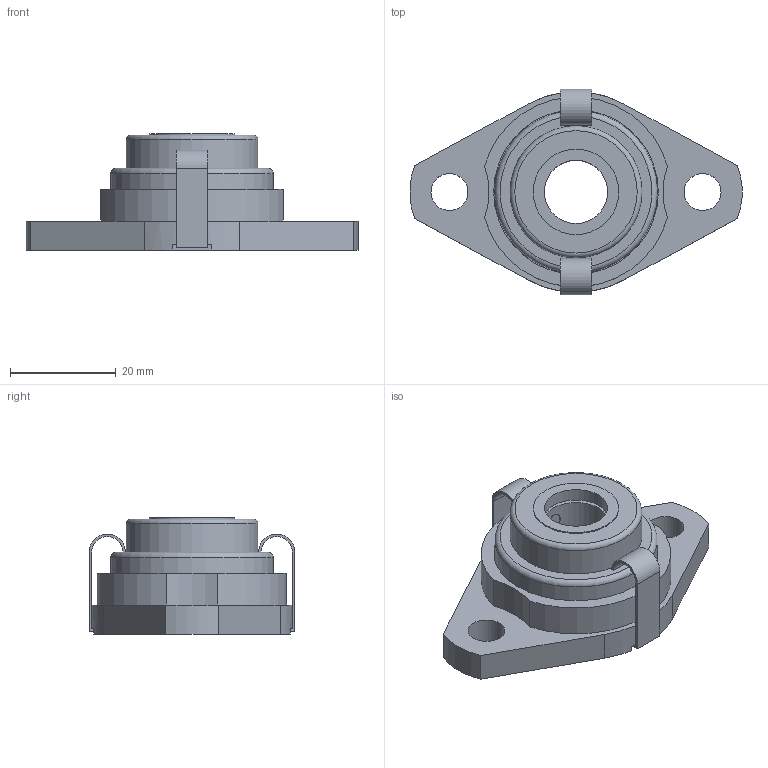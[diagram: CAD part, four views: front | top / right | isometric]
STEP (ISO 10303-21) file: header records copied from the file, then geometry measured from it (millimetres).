
FILE_DESCRIPTION((''),'2;1');
FILE_NAME('\\Ts-tgl068\j-cad-d-base\00.3DCADデータ作成フォルダ\11.エコシリーズ\MUSFL000\MUSFL001C.stp','2014-11-12T09:42:39',('btec_1106_2'),(''),'Autodesk Inventor 2012','Autodesk Inventor 2012','');
FILE_SCHEMA(('AUTOMOTIVE_DESIGN { 1 0 10303 214 1 1 1 1 }'));
Length unit declared in the file: millimetre
Products named in the file (5): MUSFL000C(E); SFL001; U001; 001CP12; 1CLL
Assembly tree (5 placements, depth 2):
  MUSFL000C(E)
    SFL001
    U001
    001CP12
    1CLL  x2
Bounding box: 62.93 x 39 x 22 mm (x, y, z)
Volume: 12966.3 mm3; surface area: 11851.2 mm2
Topology: 5 solids, 5 shells, 112 faces, 267 edges, 175 vertices
Faces by surface type: plane 62, cylinder 41, torus 4, cone 3, sphere 2
Full cylindrical faces by diameter (mm): 3.5 x1, 4 x1, 7 x2, 12 x2, 16.2 x2, 17.4 x1, 19 x1, 24.4 x1, 25 x1, 30.2 x1, 30.8 x1, 31.2 x1
Entity records: 3058 total; most frequent: CARTESIAN_POINT 606, DIRECTION 516, ORIENTED_EDGE 418, EDGE_CURVE 209, AXIS2_PLACEMENT_3D 201, VERTEX_POINT 151, EDGE_LOOP 150, VECTOR 114
